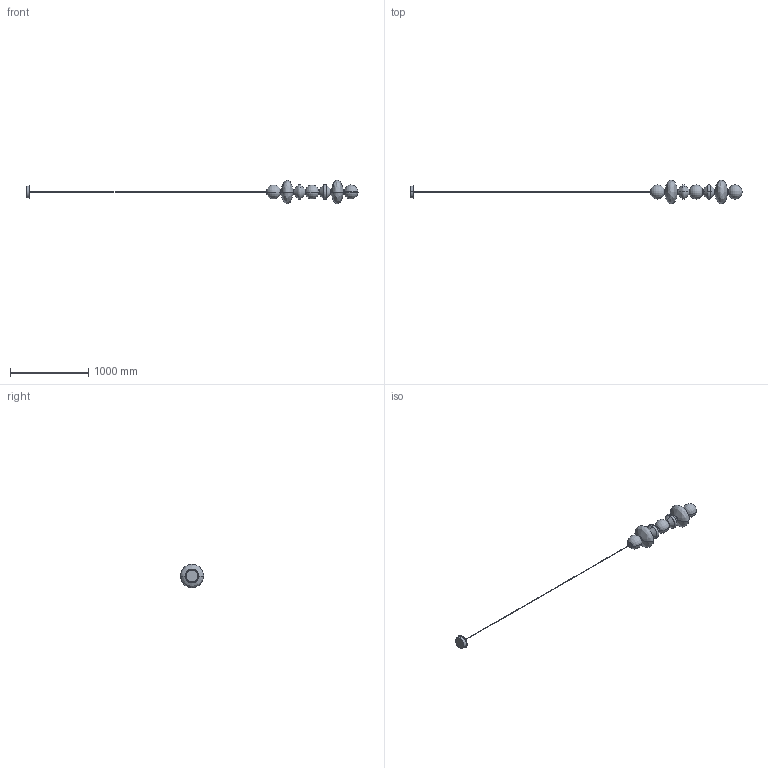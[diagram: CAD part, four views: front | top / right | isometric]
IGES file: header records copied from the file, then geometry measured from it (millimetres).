
Start section: SolidWorks IGES file using analytic representation for surfaces
Global section: file name: C:\Users\adrian\Desktop\MODELADOS USA\MAPI\MAPI_CU1235-V\MAPI_CU1235-V.IGS; native system: SolidWorks 2023; preprocessor: SolidWorks 2023; author: adrian; date: 260608.170511; units: inch
Bounding box: 4241.14 x 300 x 300 mm (x, y, z)
Surface area: 1021198.1 mm2 (no closed solid volume)
Topology: 0 solids, 0 shells, 76 faces, 1772 edges, 1771 vertices
Faces by surface type: revolution 46, bspline 30
